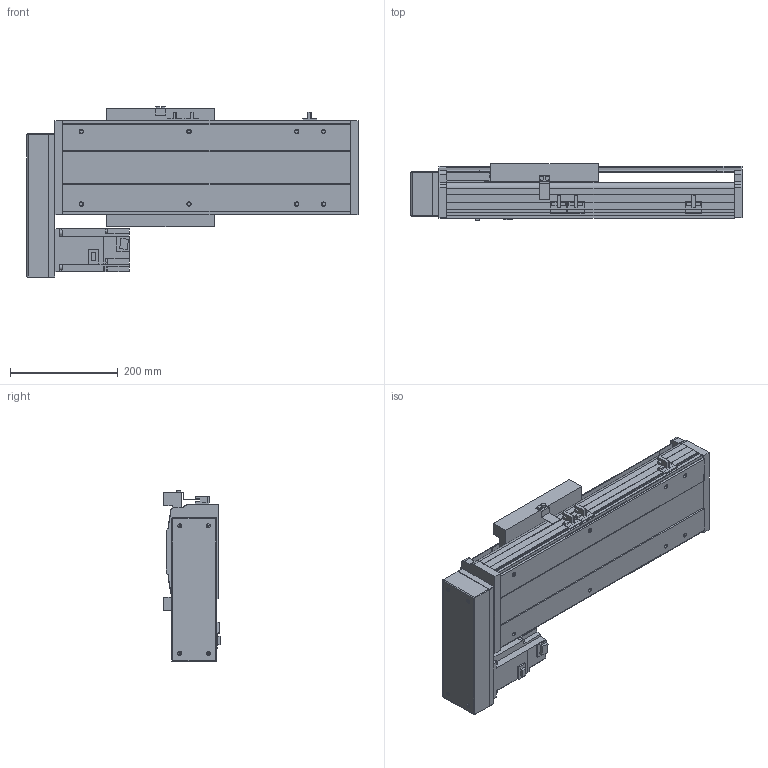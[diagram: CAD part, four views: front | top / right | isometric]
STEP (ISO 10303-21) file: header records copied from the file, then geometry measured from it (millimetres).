
FILE_DESCRIPTION( ( 'STEP AP214' ), '1' );
FILE_NAME( 'x:/temp/worker_6/temp/exporttempdir_5396_264_n7Npp/format_0/PSS200-L10-S200-BR-T75-C1-N(0).stp', '2022-06-09T01:16:04', ( 'License CC BY-ND 4.0' ), ( 'CADENAS' ), ' ', 'PARTsolutions', ' ' );
FILE_SCHEMA( ( 'AUTOMOTIVE_DESIGN { 1 0 10303 214 1 1 1 1 }' ) );
Length unit declared in the file: millimetre
Products named in the file (8): PSS200-L10-S200-BR-T75-C1-N(0); _PSS200-S200-BR-C1-N_body; _PSS200-N_Q; _PSS200-BR-C1-N_sl; _PSS200-N_sensor; _PSS200BR-N_h; _T75-p1; _PSS200-S200-BR-N_S
Assembly tree (9 placements, depth 2):
  PSS200-L10-S200-BR-T75-C1-N(0)
    _PSS200-S200-BR-C1-N_body
    _PSS200-N_Q
    _PSS200-BR-C1-N_sl
    _PSS200-N_sensor  x3
    _PSS200BR-N_h
    _T75-p1
    _PSS200-S200-BR-N_S
Bounding box: 616.85 x 105.3 x 317.86 mm (x, y, z)
Volume: 5856057.5 mm3; surface area: 1126130.5 mm2
Topology: 9 solids, 9 shells, 596 faces, 1585 edges, 1046 vertices
Faces by surface type: plane 466, cylinder 110, cone 16, sphere 4
Full cylindrical faces by diameter (mm): 4 x2, 4.5 x4, 6 x7, 6.647 x12, 7.4 x4, 8 x8, 10 x6, 25 x1, 40 x1, 67 x1
Entity records: 20790 total; most frequent: CARTESIAN_POINT 2843, DIRECTION 2732, ORIENTED_EDGE 2714, EDGE_CURVE 1357, LINE 1090, VECTOR 1090, VERTEX_POINT 932, AXIS2_PLACEMENT_3D 821
